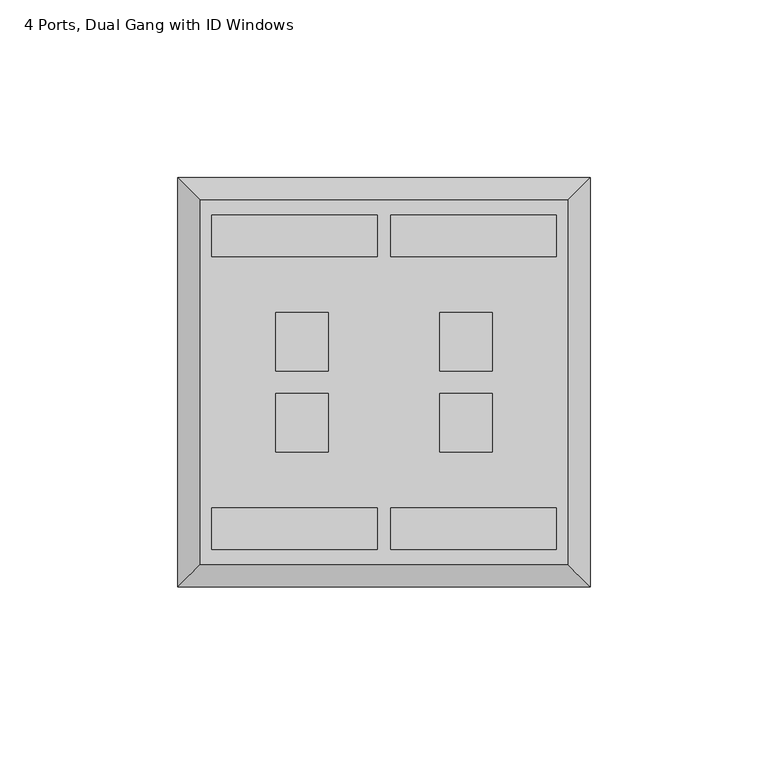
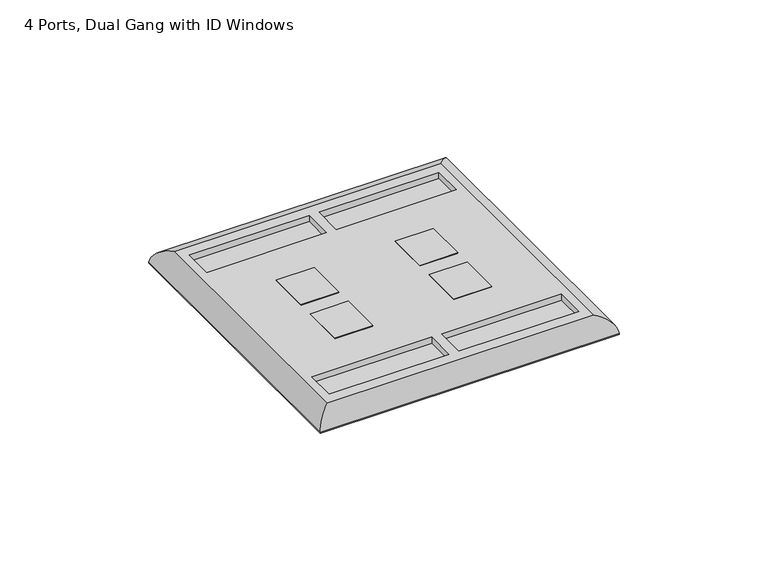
"""IFC4 building model written with IfcOpenShell, lengths in millimetres: electric appliance geometry, Data_Device-Work_Area-Leviton-QuickPort-Wallplate : 4 Ports, Dual Gang with ID Windows."""

import ifcopenshell
import ifcopenshell.guid

model = None  # the IFC model being written
_history = None  # IfcOwnerHistory: only IFC2X3 demands one
_inside = {}  # id of a spatial element -> (the spatial element, [elements in it])
_under = {}  # id of a project, library or spatial element -> (it, [spatial elements below it])
_declared = {}  # id of a project -> (the project, [libraries it declares])
_typed = {}  # id of a type object -> (the type object, [elements of that type])
_made_of = {}  # id of a material, layer set ... -> (it, [elements and type objects made of it])


def new_model(schema):
    """Start an empty IFC model of exactly this schema.

    Asked for "IFC4X3", IfcOpenShell would pick the latest addendum, in which some entities
    have other attributes; the version numbers below select the first issue.
    IFC2X3 requires an IfcOwnerHistory on every rooted entity: one is made here for all.
    """
    global model, _history
    if schema == "IFC4X3":
        model = ifcopenshell.file(schema_version=(4, 3, 0, 0))
    else:
        model = ifcopenshell.file(schema=schema)
    _inside.clear()
    _under.clear()
    _declared.clear()
    _typed.clear()
    _made_of.clear()
    _history = None
    if model.schema == "IFC2X3":
        org = make("IfcOrganization", Name="unknown")
        user = make(
            "IfcPersonAndOrganization",
            ThePerson=make("IfcPerson", FamilyName="unknown"),
            TheOrganization=org,
        )
        app = make(
            "IfcApplication",
            ApplicationDeveloper=org,
            Version="unknown",
            ApplicationFullName="unknown",
            ApplicationIdentifier="unknown",
        )
        _history = make(
            "IfcOwnerHistory",
            OwningUser=user,
            OwningApplication=app,
            ChangeAction="ADDED",
            CreationDate=0,
        )
    return model


def make(cls, **values):
    """One entity of the class cls with the attributes given. An attribute that is None is left unset."""
    return model.create_entity(
        cls, **{name: value for name, value in values.items() if value is not None}
    )


def rooted(cls, **values):
    """An entity with a GlobalId (a new one), such as an element, a storey or a relation."""
    return make(cls, GlobalId=ifcopenshell.guid.new(), OwnerHistory=_history, **values)


def si_unit(unit_type, name, prefix=None):
    """IfcSIUnit, for example si_unit("LENGTHUNIT", "METRE", prefix="MILLI")."""
    return make("IfcSIUnit", UnitType=unit_type, Prefix=prefix, Name=name)


def assignment(units):
    """IfcUnitAssignment: the units of a project."""
    return None if units is None else make("IfcUnitAssignment", Units=units)


def point(xyz):
    """IfcCartesianPoint."""
    return None if xyz is None else make("IfcCartesianPoint", Coordinates=xyz)


def direction(xyz):
    """IfcDirection."""
    return None if xyz is None else make("IfcDirection", DirectionRatios=xyz)


def frame(location, z_axis=None, x_axis=None):
    """IfcAxis2Placement3D, a coordinate frame: its origin and axes. An axis left out is left unset."""
    return make(
        "IfcAxis2Placement3D",
        Location=point(location),
        Axis=direction(z_axis),
        RefDirection=direction(x_axis),
    )


def origin():
    """The frame at (0, 0, 0) with its axes left unset."""
    return frame((0.0, 0.0, 0.0))


def origin_with_axes():
    """The frame at (0, 0, 0) with the z axis (0, 0, 1) and the x axis (1, 0, 0) written out."""
    return frame((0.0, 0.0, 0.0), z_axis=(0.0, 0.0, 1.0), x_axis=(1.0, 0.0, 0.0))


def place(relative_to, where):
    """IfcLocalPlacement: puts the frame where relative to a parent placement (None: the world)."""
    return make(
        "IfcLocalPlacement", PlacementRelTo=relative_to, RelativePlacement=where
    )


def context(
    kind, dimensions, precision=None, world=None, true_north=None, identifier=None
):
    """IfcGeometricRepresentationContext, for example the 3D "Model" context."""
    return make(
        "IfcGeometricRepresentationContext",
        ContextIdentifier=identifier,
        ContextType=kind,
        CoordinateSpaceDimension=dimensions,
        Precision=precision,
        WorldCoordinateSystem=world,
        TrueNorth=true_north,
    )


def project(units=None, contexts=None):
    """IfcProject with its units and contexts."""
    return rooted(
        "IfcProject",
        Name="project",
        RepresentationContexts=contexts,
        UnitsInContext=assignment(units),
    )


def spatial(cls, under=None, at=None, **own):
    """A site, building, storey or space (cls), placed at a placement, below another one or the project."""
    s = rooted(cls, ObjectPlacement=at, **own)
    if under is not None:
        _under.setdefault(under.id(), (under, []))[1].append(s)
    return s


def polyline(points):
    """IfcPolyline through the points."""
    return make("IfcPolyline", Points=[point(p) for p in points])


def ellipse_curve(where, semi_axis1, semi_axis2):
    """IfcEllipse in the frame where."""
    return make(
        "IfcEllipse", Position=where, SemiAxis1=semi_axis1, SemiAxis2=semi_axis2
    )


def outline(outer, holes=None, kind="AREA"):
    """IfcArbitraryClosedProfileDef: a profile drawn as a closed curve; with holes, ...WithVoids."""
    if holes is None:
        return make("IfcArbitraryClosedProfileDef", ProfileType=kind, OuterCurve=outer)
    return make(
        "IfcArbitraryProfileDefWithVoids",
        ProfileType=kind,
        OuterCurve=outer,
        InnerCurves=holes,
    )


def extrude(swept, where, along, depth):
    """IfcExtrudedAreaSolid: the profile swept, set in the frame where, extruded along a direction by depth."""
    return make(
        "IfcExtrudedAreaSolid",
        SweptArea=swept,
        Position=where,
        ExtrudedDirection=direction(along),
        Depth=depth,
    )


def shape(context_of_items, identifier, shape_type, items):
    """IfcShapeRepresentation: the items that make up one representation, for example the "Body"."""
    return make(
        "IfcShapeRepresentation",
        ContextOfItems=context_of_items,
        RepresentationIdentifier=identifier,
        RepresentationType=shape_type,
        Items=items,
    )


def source(mapping_origin, context_of_items, identifier, shape_type, items):
    """IfcRepresentationMap: a shape defined once, which mapped items show again and again."""
    return make(
        "IfcRepresentationMap",
        MappingOrigin=mapping_origin,
        MappedRepresentation=shape(context_of_items, identifier, shape_type, items),
    )


def transform(
    local_origin,
    x_axis=None,
    y_axis=None,
    z_axis=None,
    scale=None,
    scale2=None,
    scale3=None,
    uniform=True,
):
    """IfcCartesianTransformationOperator3D, or its non-uniform kind. x_axis, y_axis, z_axis: its Axis1, 2, 3."""
    if uniform:
        return make(
            "IfcCartesianTransformationOperator3D",
            Axis1=direction(x_axis),
            Axis2=direction(y_axis),
            LocalOrigin=point(local_origin),
            Scale=scale,
            Axis3=direction(z_axis),
        )
    return make(
        "IfcCartesianTransformationOperator3DnonUniform",
        Axis1=direction(x_axis),
        Axis2=direction(y_axis),
        LocalOrigin=point(local_origin),
        Scale=scale,
        Axis3=direction(z_axis),
        Scale2=scale2,
        Scale3=scale3,
    )


def mapped(mapping_source, mapping_target):
    """IfcMappedItem: shows the shape of a source again, moved by a transform."""
    return make(
        "IfcMappedItem", MappingSource=mapping_source, MappingTarget=mapping_target
    )


def made_of(thing, what):
    """Note that an element or type object is made of a material, layer set ...; save() writes the relation."""
    if what is not None:
        _made_of.setdefault(what.id(), (what, []))[1].append(thing)
    return thing


def element(
    cls,
    number,
    at=None,
    inside=None,
    cuts=None,
    type_object=None,
    material=None,
    context=None,
    identifier="Body",
    shape_type=None,
    held_by="IfcProductDefinitionShape",
    body=None,
    shapes=None,
    **own,
):
    """One element of the class cls, such as IfcWall. Its Tag is "e" and its number.

    at: its placement. inside: the storey or other place that contains it. cuts: it is an
    opening in that element (IfcRelVoidsElement). A single representation is given by context,
    identifier, shape_type and body (its items); several are given by shapes. held_by: the class
    of the entity that holds the representations. save() writes the other relations.
    """
    e = rooted(cls, Tag="e%d" % number, ObjectPlacement=at, **own)
    if body is not None:
        shapes = [shape(context, identifier, shape_type, body)]
    if shapes is not None:
        e.Representation = make(held_by, Representations=shapes)
    if inside is not None:
        _inside.setdefault(inside.id(), (inside, []))[1].append(e)
    if cuts is not None:
        rooted(
            "IfcRelVoidsElement", RelatingBuildingElement=cuts, RelatedOpeningElement=e
        )
    if type_object is not None:
        _typed.setdefault(type_object.id(), (type_object, []))[1].append(e)
    return made_of(e, material)


def aggregate(whole, parts):
    """IfcRelAggregates: a whole, such as a stair, and the parts it consists of."""
    return rooted("IfcRelAggregates", RelatingObject=whole, RelatedObjects=parts)


def save(model, path):
    """Write the relations noted so far, then the file.

    IfcRelAggregates (storeys below a building ...), IfcRelContainedInSpatialStructure (elements
    in a storey), IfcRelDefinesByType, IfcRelAssociatesMaterial and IfcRelDeclares: one each for
    every whole, place, type object, material and project.
    """
    for whole, parts in _under.values():
        aggregate(whole, parts)
    for where, things in _inside.values():
        rooted(
            "IfcRelContainedInSpatialStructure",
            RelatedElements=things,
            RelatingStructure=where,
        )
    for kind, things in _typed.values():
        rooted("IfcRelDefinesByType", RelatedObjects=things, RelatingType=kind)
    for what, things in _made_of.values():
        rooted("IfcRelAssociatesMaterial", RelatedObjects=things, RelatingMaterial=what)
    for by, libraries in _declared.values():
        rooted("IfcRelDeclares", RelatingContext=by, RelatedDefinitions=libraries)
    model.write(path)


def plane_surface(at):
    """IfcPlane: the flat surface through the origin of the frame at, square to its z axis."""
    return make("IfcPlane", Position=at)


def cylinder_surface(at, radius):
    """IfcCylindricalSurface: all points at the distance radius from the z axis of the frame at."""
    return make("IfcCylindricalSurface", Position=at, Radius=radius)


def advanced_brep(points, edges, surfaces, faces):
    """IfcAdvancedBrep: a solid bounded by faces that lie on surfaces and meet in shared edges.

    An edge is (start, end): straight between two places in points (the first is 0);
    or (start, end, curve); or (start, end, curve, False) where it runs against its curve.
    A face is (place in surfaces, loops), or (place, loops, False) where it looks against
    its surface's normal. A loop lists edges by number (the first is 1), with a minus sign
    where the edge is run from its end to its start. The first loop is the outer one.
    """
    corners = [point(p) for p in points]
    vertices = [make("IfcVertexPoint", VertexGeometry=c) for c in corners]
    made = []
    for start, end, *more in edges:
        made.append(
            make(
                "IfcEdgeCurve",
                EdgeStart=vertices[start],
                EdgeEnd=vertices[end],
                EdgeGeometry=more[0] if more else make("IfcPolyline", Points=[corners[start], corners[end]]),
                SameSense=more[1] if len(more) > 1 else True,
            )
        )
    hull = []
    for where, loops, *sense in faces:
        bounds = []
        for j, loop in enumerate(loops):
            ring = [make("IfcOrientedEdge", EdgeElement=made[abs(k) - 1], Orientation=k > 0) for k in loop]
            bounds.append(
                make(
                    "IfcFaceOuterBound" if j == 0 else "IfcFaceBound",
                    Bound=make("IfcEdgeLoop", EdgeList=ring),
                    Orientation=True,
                )
            )
        hull.append(make("IfcAdvancedFace", Bounds=bounds, FaceSurface=surfaces[where], SameSense=sense[0] if sense else True))
    return make("IfcAdvancedBrep", Outer=make("IfcClosedShell", CfsFaces=hull))


def electric_appliance_4_ports_dual_gang_with_id_windows_ca147a71(model_context):
    return source(origin(), model_context, "Body", "SolidModel", [
        extrude(outline(polyline([(-38.6842, 27.813), (-38.6842, 11.303), (-53.4162, 11.303), (-53.4162, 27.813), (-38.6842, 27.813)])), origin_with_axes(), (0.0, 0.0, 1.0), 6.35),
        extrude(outline(polyline([(-38.6842, 5.08), (-38.6842, -11.43), (-53.4162, -11.43), (-53.4162, 5.08), (-38.6842, 5.08)])), origin_with_axes(), (0.0, 0.0, 1.0), 6.35),
        extrude(outline(polyline([(7.366, 27.813), (7.366, 11.303), (-7.366, 11.303), (-7.366, 27.813), (7.366, 27.813)])), origin_with_axes(), (0.0, 0.0, 1.0), 6.35),
        extrude(outline(polyline([(7.366, 5.08), (7.366, -11.43), (-7.366, -11.43), (-7.366, 5.08), (7.366, 5.08)])), origin_with_axes(), (0.0, 0.0, 1.0), 6.35),
        advanced_brep(
        [(28.575, -42.9895, 6.35), (28.575, 59.3725, 6.35), (-74.6252, 59.3725, 6.35), (-74.6252, -42.9895, 6.35), (-71.44004, 55.1815, 6.35), (-24.95804, 55.1815, 6.35), (-24.95804, 43.4975, 6.35), (-71.44004, 43.4975, 6.35), (-21.09216, 43.4975, 6.35), (-21.09216, 55.1815, 6.35), (25.38984, 55.1815, 6.35), (25.38984, 43.4975, 6.35), (-53.4162, 27.813, 6.35), (-38.6842, 27.813, 6.35), (-38.6842, 11.303, 6.35), (-53.4162, 11.303, 6.35), (-53.4162, 5.08, 6.35), (-38.6842, 5.08, 6.35), (-38.6842, -11.43, 6.35), (-53.4162, -11.43, 6.35), (-7.366, 27.813, 6.35), (7.366, 27.813, 6.35), (7.366, 11.303, 6.35), (-7.366, 11.303, 6.35), (-7.366, 5.08, 6.35), (7.366, 5.08, 6.35), (7.366, -11.43, 6.35), (-7.366, -11.43, 6.35), (-71.44004, -27.1145, 6.35), (-24.95804, -27.1145, 6.35), (-24.95804, -38.7985, 6.35), (-71.44004, -38.7985, 6.35), (-21.09216, -27.1145, 6.35), (25.38984, -27.1145, 6.35), (25.38984, -38.7985, 6.35), (-21.09216, -38.7985, 6.35), (34.925, 65.7225, 0.0), (34.925, -49.3395, 0.0), (-80.9752, -49.3395, 0.0), (-80.9752, 65.7225, 0.0), (-38.6842, 27.813, 0.0), (-53.4162, 27.813, 0.0), (-53.4162, 11.303, 0.0), (-38.6842, 11.303, 0.0), (-38.6842, 5.08, 0.0), (-53.4162, 5.08, 0.0), (-53.4162, -11.43, 0.0), (-38.6842, -11.43, 0.0), (7.366, 27.813, 0.0), (-7.366, 27.813, 0.0), (-7.366, 11.303, 0.0), (7.366, 11.303, 0.0), (7.366, 5.08, 0.0), (-7.366, 5.08, 0.0), (-7.366, -11.43, 0.0), (7.366, -11.43, 0.0), (-80.9752, 65.7225, 0.254), (34.925, 65.7225, 0.254), (-80.9752, -49.3395, 0.254), (34.925, -49.3395, 0.254), (-24.95804, 55.1815, 3.81), (-71.44004, 55.1815, 3.81), (-71.44004, 43.4975, 3.81), (-24.95804, 43.4975, 3.81), (-21.09216, 55.1815, 3.81), (-21.09216, 43.4975, 3.81), (25.38984, 43.4975, 3.81), (25.38984, 55.1815, 3.81), (-24.95804, -27.1145, 3.81), (-71.44004, -27.1145, 3.81), (-71.44004, -38.7985, 3.81), (-24.95804, -38.7985, 3.81), (25.38984, -27.1145, 3.81), (-21.09216, -27.1145, 3.81), (-21.09216, -38.7985, 3.81), (25.38984, -38.7985, 3.81)],
        [
            (0, 1),
            (1, 2),
            (2, 3),
            (3, 0),
            (4, 5),
            (5, 6),
            (6, 7),
            (7, 4),
            (8, 9),
            (9, 10),
            (10, 11),
            (11, 8),
            (12, 13),
            (13, 14),
            (14, 15),
            (15, 12),
            (16, 17),
            (17, 18),
            (18, 19),
            (19, 16),
            (20, 21),
            (21, 22),
            (22, 23),
            (23, 20),
            (24, 25),
            (25, 26),
            (26, 27),
            (27, 24),
            (28, 29),
            (29, 30),
            (30, 31),
            (31, 28),
            (32, 33),
            (33, 34),
            (34, 35),
            (35, 32),
            (36, 37),
            (37, 38),
            (38, 39),
            (39, 36),
            (40, 41),
            (41, 42),
            (42, 43),
            (43, 40),
            (44, 45),
            (45, 46),
            (46, 47),
            (47, 44),
            (48, 49),
            (49, 50),
            (50, 51),
            (51, 48),
            (52, 53),
            (53, 54),
            (54, 55),
            (55, 52),
            (39, 56),
            (56, 57),
            (57, 36),
            (38, 58),
            (58, 56),
            (37, 59),
            (59, 58),
            (57, 59),
            (60, 61),
            (61, 62),
            (62, 63),
            (63, 60),
            (64, 65),
            (65, 66),
            (66, 67),
            (67, 64),
            (60, 5),
            (4, 61),
            (7, 62),
            (6, 63),
            (64, 9),
            (8, 65),
            (11, 66),
            (10, 67),
            (12, 41),
            (40, 13),
            (15, 42),
            (14, 43),
            (16, 45),
            (44, 17),
            (19, 46),
            (18, 47),
            (20, 49),
            (48, 21),
            (23, 50),
            (22, 51),
            (24, 53),
            (52, 25),
            (27, 54),
            (26, 55),
            (68, 69),
            (69, 70),
            (70, 71),
            (71, 68),
            (72, 73),
            (73, 74),
            (74, 75),
            (75, 72),
            (68, 29),
            (28, 69),
            (31, 70),
            (30, 71),
            (72, 33),
            (32, 73),
            (35, 74),
            (34, 75),
            (0, 59, ellipse_curve(frame((28.575, -42.9895, -0.0052917), z_axis=(0.7071067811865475, 0.7071067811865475, 0.0), x_axis=(0.7071067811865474, -0.7071067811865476, 0.0)), 8.9877397, 6.3552917)),
            (57, 1, ellipse_curve(frame((28.575, 59.3725, -0.0052917), z_axis=(0.7071067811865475, -0.7071067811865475, 0.0), x_axis=(-0.7071067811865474, -0.7071067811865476, 0.0)), 8.9877397, 6.3552917)),
            (3, 58, ellipse_curve(frame((-74.6252, -42.9895, -0.0052917), z_axis=(0.7071067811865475, -0.7071067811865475, 0.0), x_axis=(-0.7071067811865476, -0.7071067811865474, 0.0)), 8.9877397, 6.3552917)),
            (2, 56, ellipse_curve(frame((-74.6252, 59.3725, -0.0052917), z_axis=(-0.7071067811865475, -0.7071067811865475, 0.0), x_axis=(-0.7071067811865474, 0.7071067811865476, 0.0)), 8.9877397, 6.3552917)),
        ],
        [
            plane_surface(frame((-80.9752, 65.7225, 6.35), z_axis=(0.0, 0.0, 1.0), x_axis=(-1.0, 0.0, 0.0))),
            plane_surface(frame((-80.9752, 65.7225, 0.0), z_axis=(0.0, 0.0, -1.0), x_axis=(1.0, 0.0, 0.0))),
            plane_surface(frame((34.925, 65.7225, 6.35), z_axis=(0.0, 1.0, 0.0), x_axis=(0.0, 0.0, -1.0))),
            plane_surface(frame((-80.9752, 65.7225, 6.35), z_axis=(-1.0, 0.0, 0.0), x_axis=(0.0, 0.0, -1.0))),
            plane_surface(frame((-80.9752, -49.3395, 6.35), z_axis=(0.0, -1.0, 0.0), x_axis=(0.0, 0.0, -1.0))),
            plane_surface(frame((34.925, -49.3395, 6.35), z_axis=(1.0, 0.0, 0.0), x_axis=(0.0, 0.0, -1.0))),
            plane_surface(frame((-71.44004, 55.1815, 3.81), z_axis=(0.0, 0.0, 1.0), x_axis=(1.0, 0.0, 0.0))),
            plane_surface(frame((-24.95804, 55.1815, 6.35), z_axis=(0.0, -1.0, 0.0), x_axis=(0.0, 0.0, -1.0))),
            plane_surface(frame((-71.44004, 55.1815, 6.35), z_axis=(1.0, 0.0, 0.0), x_axis=(0.0, 0.0, -1.0))),
            plane_surface(frame((-71.44004, 43.4975, 6.35), z_axis=(0.0, 1.0, 0.0), x_axis=(0.0, 0.0, -1.0))),
            plane_surface(frame((-24.95804, 43.4975, 6.35), z_axis=(-1.0, 0.0, 0.0), x_axis=(0.0, 0.0, -1.0))),
            plane_surface(frame((-21.09216, 55.1815, 6.35), z_axis=(1.0, 0.0, 0.0), x_axis=(0.0, 0.0, -1.0))),
            plane_surface(frame((-21.09216, 43.4975, 6.35), z_axis=(0.0, 1.0, 0.0), x_axis=(0.0, 0.0, -1.0))),
            plane_surface(frame((25.38984, 43.4975, 6.35), z_axis=(-1.0, 0.0, 0.0), x_axis=(0.0, 0.0, -1.0))),
            plane_surface(frame((25.38984, 55.1815, 6.35), z_axis=(0.0, -1.0, 0.0), x_axis=(0.0, 0.0, -1.0))),
            plane_surface(frame((-38.6842, 27.813, 6.35), z_axis=(0.0, -1.0, 0.0), x_axis=(0.0, 0.0, -1.0))),
            plane_surface(frame((-53.4162, 27.813, 6.35), z_axis=(1.0, 0.0, 0.0), x_axis=(0.0, 0.0, -1.0))),
            plane_surface(frame((-53.4162, 11.303, 6.35), z_axis=(0.0, 1.0, 0.0), x_axis=(0.0, 0.0, -1.0))),
            plane_surface(frame((-38.6842, 11.303, 6.35), z_axis=(-1.0, 0.0, 0.0), x_axis=(0.0, 0.0, -1.0))),
            plane_surface(frame((-38.6842, 5.08, 6.35), z_axis=(0.0, -1.0, 0.0), x_axis=(0.0, 0.0, -1.0))),
            plane_surface(frame((-53.4162, 5.08, 6.35), z_axis=(1.0, 0.0, 0.0), x_axis=(0.0, 0.0, -1.0))),
            plane_surface(frame((-53.4162, -11.43, 6.35), z_axis=(0.0, 1.0, 0.0), x_axis=(0.0, 0.0, -1.0))),
            plane_surface(frame((-38.6842, -11.43, 6.35), z_axis=(-1.0, 0.0, 0.0), x_axis=(0.0, 0.0, -1.0))),
            plane_surface(frame((7.366, 27.813, 6.35), z_axis=(0.0, -1.0, 0.0), x_axis=(0.0, 0.0, -1.0))),
            plane_surface(frame((-7.366, 27.813, 6.35), z_axis=(1.0, 0.0, 0.0), x_axis=(0.0, 0.0, -1.0))),
            plane_surface(frame((-7.366, 11.303, 6.35), z_axis=(0.0, 1.0, 0.0), x_axis=(0.0, 0.0, -1.0))),
            plane_surface(frame((7.366, 11.303, 6.35), z_axis=(-1.0, 0.0, 0.0), x_axis=(0.0, 0.0, -1.0))),
            plane_surface(frame((7.366, 5.08, 6.35), z_axis=(0.0, -1.0, 0.0), x_axis=(0.0, 0.0, -1.0))),
            plane_surface(frame((-7.366, 5.08, 6.35), z_axis=(1.0, 0.0, 0.0), x_axis=(0.0, 0.0, -1.0))),
            plane_surface(frame((-7.366, -11.43, 6.35), z_axis=(0.0, 1.0, 0.0), x_axis=(0.0, 0.0, -1.0))),
            plane_surface(frame((7.366, -11.43, 6.35), z_axis=(-1.0, 0.0, 0.0), x_axis=(0.0, 0.0, -1.0))),
            plane_surface(frame((-71.44004, -27.1145, 3.81), z_axis=(0.0, 0.0, 1.0), x_axis=(1.0, 0.0, 0.0))),
            plane_surface(frame((-24.95804, -27.1145, 6.35), z_axis=(0.0, -1.0, 0.0), x_axis=(0.0, 0.0, -1.0))),
            plane_surface(frame((-71.44004, -27.1145, 6.35), z_axis=(1.0, 0.0, 0.0), x_axis=(0.0, 0.0, -1.0))),
            plane_surface(frame((-71.44004, -38.7985, 6.35), z_axis=(0.0, 1.0, 0.0), x_axis=(0.0, 0.0, -1.0))),
            plane_surface(frame((-24.95804, -38.7985, 6.35), z_axis=(-1.0, 0.0, 0.0), x_axis=(0.0, 0.0, -1.0))),
            plane_surface(frame((25.38984, -27.1145, 6.35), z_axis=(0.0, -1.0, 0.0), x_axis=(0.0, 0.0, -1.0))),
            plane_surface(frame((-21.09216, -27.1145, 6.35), z_axis=(1.0, 0.0, 0.0), x_axis=(0.0, 0.0, -1.0))),
            plane_surface(frame((-21.09216, -38.7985, 6.35), z_axis=(0.0, 1.0, 0.0), x_axis=(0.0, 0.0, -1.0))),
            plane_surface(frame((25.38984, -38.7985, 6.35), z_axis=(-1.0, 0.0, 0.0), x_axis=(0.0, 0.0, -1.0))),
            cylinder_surface(frame((28.575, 65.7225, -0.0052917), z_axis=(0.0, -1.0, 0.0), x_axis=(1.0, 0.0, 0.0)), 6.3552917),
            cylinder_surface(frame((34.925, -42.9895, -0.0052917), z_axis=(-1.0, 0.0, 0.0), x_axis=(0.0, -1.0, 0.0)), 6.3552917),
            cylinder_surface(frame((-74.6252, -49.3395, -0.0052917), z_axis=(0.0, 1.0, 0.0), x_axis=(-1.0, 0.0, 0.0)), 6.3552917),
            cylinder_surface(frame((-80.9752, 59.3725, -0.0052917), z_axis=(1.0, 0.0, 0.0), x_axis=(0.0, 1.0, 0.0)), 6.3552917),
        ],
        [
            (0, [[1, 2, 3, 4], [5, 6, 7, 8], [9, 10, 11, 12], [13, 14, 15, 16], [17, 18, 19, 20], [21, 22, 23, 24], [25, 26, 27, 28], [29, 30, 31, 32], [33, 34, 35, 36]]),
            (1, [[37, 38, 39, 40], [41, 42, 43, 44], [45, 46, 47, 48], [49, 50, 51, 52], [53, 54, 55, 56]]),
            (2, [[-40, 57, 58, 59]]),
            (3, [[-39, 60, 61, -57]]),
            (4, [[-38, 62, 63, -60]]),
            (5, [[-37, -59, 64, -62]]),
            (6, [[65, 66, 67, 68]]),
            (6, [[69, 70, 71, 72]]),
            (7, [[-65, 73, -5, 74]]),
            (8, [[-66, -74, -8, 75]]),
            (9, [[-67, -75, -7, 76]]),
            (10, [[-68, -76, -6, -73]]),
            (11, [[-69, 77, -9, 78]]),
            (12, [[-70, -78, -12, 79]]),
            (13, [[-71, -79, -11, 80]]),
            (14, [[-72, -80, -10, -77]]),
            (15, [[81, -41, 82, -13]]),
            (16, [[-81, -16, 83, -42]]),
            (17, [[-83, -15, 84, -43]]),
            (18, [[-82, -44, -84, -14]]),
            (19, [[85, -45, 86, -17]]),
            (20, [[-85, -20, 87, -46]]),
            (21, [[-87, -19, 88, -47]]),
            (22, [[-86, -48, -88, -18]]),
            (23, [[89, -49, 90, -21]]),
            (24, [[-89, -24, 91, -50]]),
            (25, [[-91, -23, 92, -51]]),
            (26, [[-90, -52, -92, -22]]),
            (27, [[93, -53, 94, -25]]),
            (28, [[-93, -28, 95, -54]]),
            (29, [[-95, -27, 96, -55]]),
            (30, [[-94, -56, -96, -26]]),
            (31, [[97, 98, 99, 100]]),
            (31, [[101, 102, 103, 104]]),
            (32, [[-97, 105, -29, 106]]),
            (33, [[-98, -106, -32, 107]]),
            (34, [[-99, -107, -31, 108]]),
            (35, [[-100, -108, -30, -105]]),
            (36, [[-101, 109, -33, 110]]),
            (37, [[-102, -110, -36, 111]]),
            (38, [[-103, -111, -35, 112]]),
            (39, [[-104, -112, -34, -109]]),
            (40, [[113, -64, 114, -1]]),
            (41, [[-113, -4, 115, -63]]),
            (42, [[-115, -3, 116, -61]]),
            (43, [[-114, -58, -116, -2]]),
        ],
    ),
        extrude(outline(polyline([(34.671, 65.4685), (34.671, -49.0855), (-80.7212, -49.0855), (-80.7212, 65.4685), (34.671, 65.4685)]), holes=[polyline([(-38.6842, 27.813), (-53.4162, 27.813), (-53.4162, 11.303), (-38.6842, 11.303), (-38.6842, 27.813)]), polyline([(-38.6842, 5.08), (-53.4162, 5.08), (-53.4162, -11.43), (-38.6842, -11.43), (-38.6842, 5.08)]), polyline([(7.366, 27.813), (-7.366, 27.813), (-7.366, 11.303), (7.366, 11.303), (7.366, 27.813)]), polyline([(7.366, 5.08), (-7.366, 5.08), (-7.366, -11.43), (7.366, -11.43), (7.366, 5.08)])]), origin_with_axes(), (0.0, 0.0, 1.0), 0.254),
    ])


if __name__ == "__main__":
    model = new_model("IFC4")
    model_context = context("Model", 3, world=origin())
    ifc_project = project(units=[si_unit("LENGTHUNIT", "METRE", prefix="MILLI")], contexts=[model_context])
    site = spatial("IfcSite", under=ifc_project)
    building = spatial("IfcBuilding", under=site)
    placement = place(None, origin())
    electric_appliance_4_ports_dual_gang_with_id_windows_shape = electric_appliance_4_ports_dual_gang_with_id_windows_ca147a71(model_context)
    element("IfcElectricAppliance", 1, ObjectType="Data_Device-Work_Area-Leviton-QuickPort-Wallplate : 4 Ports, Dual Gang with ID Windows", at=placement, inside=building, context=model_context, shape_type="MappedRepresentation", body=[
        mapped(electric_appliance_4_ports_dual_gang_with_id_windows_shape, transform((0.0, 0.0, 0.0), x_axis=(1.0, 0.0, 0.0), y_axis=(0.0, 1.0, 0.0), z_axis=(0.0, 0.0, 1.0))),
    ])
    save(model, "model.ifc")
